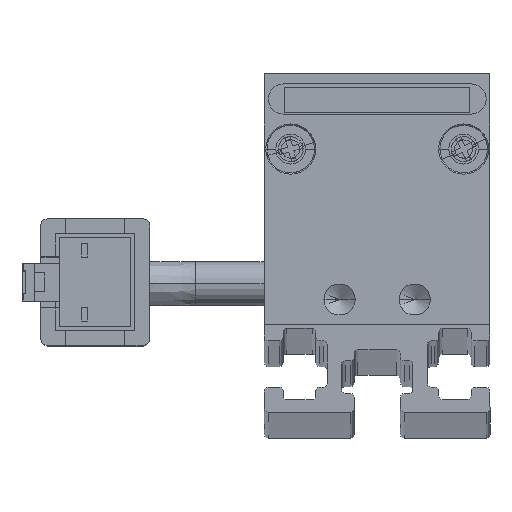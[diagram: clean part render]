
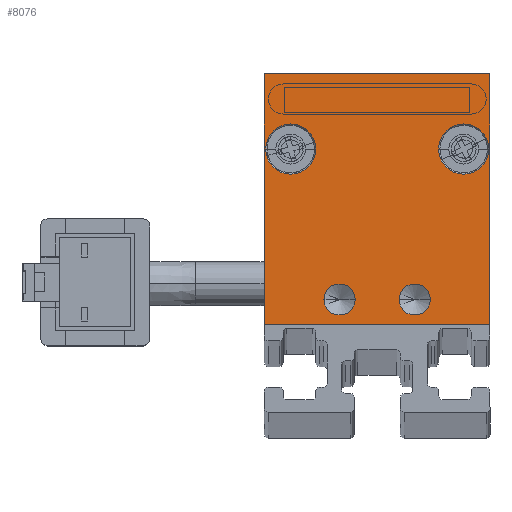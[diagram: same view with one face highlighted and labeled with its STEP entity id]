
A CAD part, top view. The second image highlights one B-rep face of the part: STEP entity #8076.
In plain terms, the highlighted planar face has unit normal (0, 0, 1) as drawn and (0, 0, -1) by its records, which use the part's own axes.
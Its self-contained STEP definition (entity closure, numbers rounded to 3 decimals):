
#200 = AXIS2_PLACEMENT_3D ( 'NONE', #1446, #7082, #10937 ) ;
#239 = CARTESIAN_POINT ( 'NONE',  ( -9., 20., -2.5 ) ) ;
#371 = EDGE_LOOP ( 'NONE', ( #5850, #2487, #11971, #1319 ) ) ;
#413 = CIRCLE ( 'NONE', #10695, 1.25 ) ;
#428 = DIRECTION ( 'NONE',  ( 1., 0., 0. ) ) ;
#552 = FACE_BOUND ( 'NONE', #9787, .T. ) ;
#560 = EDGE_LOOP ( 'NONE', ( #10353, #3326 ) ) ;
#731 = VERTEX_POINT ( 'NONE', #3285 ) ;
#893 = DIRECTION ( 'NONE',  ( 0., 1., 0. ) ) ;
#987 = DIRECTION ( 'NONE',  ( 1., 0., 0. ) ) ;
#1005 = VERTEX_POINT ( 'NONE', #12487 ) ;
#1101 = VECTOR ( 'NONE', #428, 1000. ) ;
#1249 = VERTEX_POINT ( 'NONE', #1292 ) ;
#1292 = CARTESIAN_POINT ( 'NONE',  ( 4.25, 2., -2.5 ) ) ;
#1315 = CARTESIAN_POINT ( 'NONE',  ( 8.9, 14., -2.5 ) ) ;
#1319 = ORIENTED_EDGE ( 'NONE', *, *, #9064, .F. ) ;
#1389 = AXIS2_PLACEMENT_3D ( 'NONE', #7220, #11147, #8116 ) ;
#1446 = CARTESIAN_POINT ( 'NONE',  ( 3., 2., -2.5 ) ) ;
#1711 = DIRECTION ( 'NONE',  ( -1., 0., 0. ) ) ;
#1881 = CARTESIAN_POINT ( 'NONE',  ( 9., 20., -2.5 ) ) ;
#1882 = CARTESIAN_POINT ( 'NONE',  ( -4.9, 14., -2.5 ) ) ;
#1910 = CARTESIAN_POINT ( 'NONE',  ( -9., 20., -2.5 ) ) ;
#2487 = ORIENTED_EDGE ( 'NONE', *, *, #4673, .F. ) ;
#2909 = DIRECTION ( 'NONE',  ( 0., 0., -1. ) ) ;
#3062 = ORIENTED_EDGE ( 'NONE', *, *, #7620, .F. ) ;
#3228 = LINE ( 'NONE', #6149, #6841 ) ;
#3285 = CARTESIAN_POINT ( 'NONE',  ( -1.75, 2., -2.5 ) ) ;
#3326 = ORIENTED_EDGE ( 'NONE', *, *, #9512, .F. ) ;
#3418 = EDGE_CURVE ( 'NONE', #1249, #5112, #11293, .T. ) ;
#3841 = ORIENTED_EDGE ( 'NONE', *, *, #5924, .F. ) ;
#3864 = EDGE_CURVE ( 'NONE', #1005, #5549, #4019, .T. ) ;
#3866 = CIRCLE ( 'NONE', #5273, 1.25 ) ;
#4005 = DIRECTION ( 'NONE',  ( 0., -1., 0. ) ) ;
#4019 = CIRCLE ( 'NONE', #11080, 2. ) ;
#4037 = CARTESIAN_POINT ( 'NONE',  ( -9., 0., -2.5 ) ) ;
#4134 = ORIENTED_EDGE ( 'NONE', *, *, #7487, .F. ) ;
#4276 = LINE ( 'NONE', #8063, #1101 ) ;
#4313 = EDGE_LOOP ( 'NONE', ( #11788, #5488 ) ) ;
#4529 = VERTEX_POINT ( 'NONE', #12467 ) ;
#4653 = DIRECTION ( 'NONE',  ( 0., 0., 1. ) ) ;
#4673 = EDGE_CURVE ( 'NONE', #5242, #11841, #3228, .T. ) ;
#4776 = CARTESIAN_POINT ( 'NONE',  ( 0., 0., -2.5 ) ) ;
#4876 = CIRCLE ( 'NONE', #11945, 1.25 ) ;
#4887 = CARTESIAN_POINT ( 'NONE',  ( -3., 2., -2.5 ) ) ;
#5112 = VERTEX_POINT ( 'NONE', #9284 ) ;
#5166 = DIRECTION ( 'NONE',  ( 0., 0., -1. ) ) ;
#5242 = VERTEX_POINT ( 'NONE', #12129 ) ;
#5273 = AXIS2_PLACEMENT_3D ( 'NONE', #4887, #10704, #7739 ) ;
#5352 = FACE_BOUND ( 'NONE', #4313, .T. ) ;
#5469 = CIRCLE ( 'NONE', #11316, 2. ) ;
#5488 = ORIENTED_EDGE ( 'NONE', *, *, #6991, .F. ) ;
#5549 = VERTEX_POINT ( 'NONE', #1882 ) ;
#5795 = PLANE ( 'NONE',  #6295 ) ;
#5850 = ORIENTED_EDGE ( 'NONE', *, *, #11796, .F. ) ;
#5924 = EDGE_CURVE ( 'NONE', #5112, #1249, #413, .T. ) ;
#6054 = DIRECTION ( 'NONE',  ( -1., 0., 0. ) ) ;
#6149 = CARTESIAN_POINT ( 'NONE',  ( -9., 20., -2.5 ) ) ;
#6211 = EDGE_CURVE ( 'NONE', #7346, #5242, #11381, .T. ) ;
#6295 = AXIS2_PLACEMENT_3D ( 'NONE', #4776, #4653, #987 ) ;
#6408 = CARTESIAN_POINT ( 'NONE',  ( 9., 0., -2.5 ) ) ;
#6814 = VERTEX_POINT ( 'NONE', #8636 ) ;
#6836 = DIRECTION ( 'NONE',  ( -1., 0., 0. ) ) ;
#6841 = VECTOR ( 'NONE', #8041, 1000. ) ;
#6991 = EDGE_CURVE ( 'NONE', #9906, #4529, #5469, .T. ) ;
#7082 = DIRECTION ( 'NONE',  ( 0., 0., -1. ) ) ;
#7220 = CARTESIAN_POINT ( 'NONE',  ( 6.9, 14., -2.5 ) ) ;
#7282 = CARTESIAN_POINT ( 'NONE',  ( -6.9, 14., -2.5 ) ) ;
#7346 = VERTEX_POINT ( 'NONE', #6408 ) ;
#7487 = EDGE_CURVE ( 'NONE', #6814, #731, #3866, .T. ) ;
#7620 = EDGE_CURVE ( 'NONE', #731, #6814, #4876, .T. ) ;
#7739 = DIRECTION ( 'NONE',  ( -1., 0., 0. ) ) ;
#7794 = CARTESIAN_POINT ( 'NONE',  ( 3., 2., -2.5 ) ) ;
#7928 = ORIENTED_EDGE ( 'NONE', *, *, #3418, .F. ) ;
#8041 = DIRECTION ( 'NONE',  ( -1., 0., 0. ) ) ;
#8063 = CARTESIAN_POINT ( 'NONE',  ( -9., 0., -2.5 ) ) ;
#8076 = ADVANCED_FACE ( 'NONE', ( #5352, #9198, #552, #8257, #9644 ), #5795, .F. ) ;
#8116 = DIRECTION ( 'NONE',  ( -1., 0., 0. ) ) ;
#8257 = FACE_BOUND ( 'NONE', #9148, .T. ) ;
#8559 = CARTESIAN_POINT ( 'NONE',  ( 6.9, 14., -2.5 ) ) ;
#8636 = CARTESIAN_POINT ( 'NONE',  ( -4.25, 2., -2.5 ) ) ;
#8898 = CARTESIAN_POINT ( 'NONE',  ( -6.9, 14., -2.5 ) ) ;
#8926 = DIRECTION ( 'NONE',  ( -1., 0., 0. ) ) ;
#9064 = EDGE_CURVE ( 'NONE', #9821, #7346, #4276, .T. ) ;
#9148 = EDGE_LOOP ( 'NONE', ( #4134, #3062 ) ) ;
#9198 = FACE_BOUND ( 'NONE', #560, .T. ) ;
#9284 = CARTESIAN_POINT ( 'NONE',  ( 1.75, 2., -2.5 ) ) ;
#9512 = EDGE_CURVE ( 'NONE', #5549, #1005, #12414, .T. ) ;
#9644 = FACE_OUTER_BOUND ( 'NONE', #371, .T. ) ;
#9705 = LINE ( 'NONE', #1910, #12294 ) ;
#9787 = EDGE_LOOP ( 'NONE', ( #3841, #7928 ) ) ;
#9821 = VERTEX_POINT ( 'NONE', #4037 ) ;
#9906 = VERTEX_POINT ( 'NONE', #1315 ) ;
#10123 = DIRECTION ( 'NONE',  ( -1., 0., 0. ) ) ;
#10353 = ORIENTED_EDGE ( 'NONE', *, *, #3864, .F. ) ;
#10695 = AXIS2_PLACEMENT_3D ( 'NONE', #7794, #10953, #8926 ) ;
#10704 = DIRECTION ( 'NONE',  ( 0., 0., -1. ) ) ;
#10907 = VECTOR ( 'NONE', #893, 1000. ) ;
#10937 = DIRECTION ( 'NONE',  ( -1., 0., 0. ) ) ;
#10953 = DIRECTION ( 'NONE',  ( 0., 0., -1. ) ) ;
#11080 = AXIS2_PLACEMENT_3D ( 'NONE', #8898, #5166, #6054 ) ;
#11143 = DIRECTION ( 'NONE',  ( 0., 0., -1. ) ) ;
#11147 = DIRECTION ( 'NONE',  ( 0., 0., -1. ) ) ;
#11211 = DIRECTION ( 'NONE',  ( 0., 0., -1. ) ) ;
#11283 = CIRCLE ( 'NONE', #1389, 2. ) ;
#11293 = CIRCLE ( 'NONE', #200, 1.25 ) ;
#11316 = AXIS2_PLACEMENT_3D ( 'NONE', #8559, #11211, #1711 ) ;
#11381 = LINE ( 'NONE', #1881, #10907 ) ;
#11404 = AXIS2_PLACEMENT_3D ( 'NONE', #7282, #11143, #10123 ) ;
#11574 = CARTESIAN_POINT ( 'NONE',  ( -3., 2., -2.5 ) ) ;
#11788 = ORIENTED_EDGE ( 'NONE', *, *, #11897, .F. ) ;
#11796 = EDGE_CURVE ( 'NONE', #11841, #9821, #9705, .T. ) ;
#11841 = VERTEX_POINT ( 'NONE', #239 ) ;
#11897 = EDGE_CURVE ( 'NONE', #4529, #9906, #11283, .T. ) ;
#11945 = AXIS2_PLACEMENT_3D ( 'NONE', #11574, #2909, #6836 ) ;
#11971 = ORIENTED_EDGE ( 'NONE', *, *, #6211, .F. ) ;
#12129 = CARTESIAN_POINT ( 'NONE',  ( 9., 20., -2.5 ) ) ;
#12294 = VECTOR ( 'NONE', #4005, 1000. ) ;
#12414 = CIRCLE ( 'NONE', #11404, 2. ) ;
#12467 = CARTESIAN_POINT ( 'NONE',  ( 4.9, 14., -2.5 ) ) ;
#12487 = CARTESIAN_POINT ( 'NONE',  ( -8.9, 14., -2.5 ) ) ;
